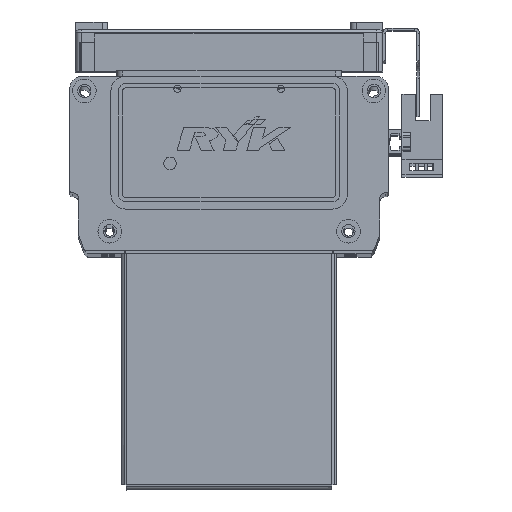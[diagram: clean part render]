
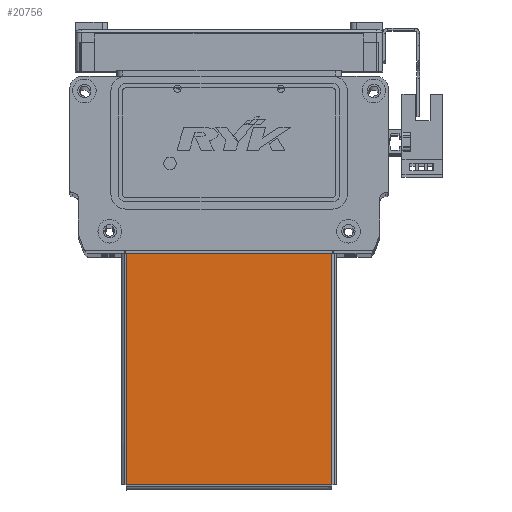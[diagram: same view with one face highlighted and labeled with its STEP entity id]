
A CAD part, top view. The second image highlights one B-rep face of the part: STEP entity #20756.
In plain terms, the highlighted planar face has unit normal (0, 0, 1) as drawn and (0, 1, 0) by its records, which use the part's own axes.
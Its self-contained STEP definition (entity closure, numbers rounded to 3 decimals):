
#796 = CARTESIAN_POINT ( 'NONE',  ( -34.763, 0., 38.763 ) ) ;
#799 = CARTESIAN_POINT ( 'NONE',  ( -34.763, 0., -39.5 ) ) ;
#815 = CARTESIAN_POINT ( 'NONE',  ( 34.763, 0., 38.763 ) ) ;
#820 = CARTESIAN_POINT ( 'NONE',  ( 34.763, 0., -39.5 ) ) ;
#11439 = ORIENTED_EDGE ( 'NONE', *, *, #44593, .T. ) ;
#11470 = ORIENTED_EDGE ( 'NONE', *, *, #44503, .T. ) ;
#11504 = ORIENTED_EDGE ( 'NONE', *, *, #44521, .T. ) ;
#11514 = ORIENTED_EDGE ( 'NONE', *, *, #44567, .T. ) ;
#14932 = DIRECTION ( 'NONE',  ( 0., 0., 1. ) ) ;
#14935 = CARTESIAN_POINT ( 'NONE',  ( -34.763, 0., -39.5 ) ) ;
#15002 = CARTESIAN_POINT ( 'NONE',  ( -35.5, 0., -39.5 ) ) ;
#15007 = DIRECTION ( 'NONE',  ( -1., 0., 0. ) ) ;
#15194 = DIRECTION ( 'NONE',  ( 0., 0., -1. ) ) ;
#15198 = CARTESIAN_POINT ( 'NONE',  ( 34.763, 0., 38.793 ) ) ;
#15280 = CARTESIAN_POINT ( 'NONE',  ( -34.793, 0., 38.763 ) ) ;
#15282 = DIRECTION ( 'NONE',  ( 1., 0., 0. ) ) ;
#17265 = PLANE ( 'NONE',  #18372 ) ;
#17283 = CARTESIAN_POINT ( 'NONE',  ( 0., 0., 0. ) ) ;
#17284 = DIRECTION ( 'NONE',  ( 0., 1., 0. ) ) ;
#17285 = DIRECTION ( 'NONE',  ( 0., 0., 1. ) ) ;
#18372 = AXIS2_PLACEMENT_3D ( 'NONE', #17283, #17284, #17285 ) ;
#20756 = ADVANCED_FACE ( 'NONE', ( #37114 ), #17265, .T. ) ;
#25755 = LINE ( 'NONE', #14935, #25762 ) ;
#25762 = VECTOR ( 'NONE', #14932, 1000. ) ;
#25860 = VECTOR ( 'NONE', #15007, 1000. ) ;
#25887 = LINE ( 'NONE', #15002, #25860 ) ;
#25976 = LINE ( 'NONE', #15198, #26035 ) ;
#26035 = VECTOR ( 'NONE', #15194, 1000. ) ;
#26111 = VECTOR ( 'NONE', #15282, 1000. ) ;
#26133 = LINE ( 'NONE', #15280, #26111 ) ;
#37114 = FACE_OUTER_BOUND ( 'NONE', #59420, .T. ) ;
#44503 = EDGE_CURVE ( 'NONE', #53960, #53974, #25755, .T. ) ;
#44521 = EDGE_CURVE ( 'NONE', #53970, #53960, #25887, .T. ) ;
#44567 = EDGE_CURVE ( 'NONE', #53958, #53970, #25976, .T. ) ;
#44593 = EDGE_CURVE ( 'NONE', #53974, #53958, #26133, .T. ) ;
#53958 = VERTEX_POINT ( 'NONE', #815 ) ;
#53960 = VERTEX_POINT ( 'NONE', #799 ) ;
#53970 = VERTEX_POINT ( 'NONE', #820 ) ;
#53974 = VERTEX_POINT ( 'NONE', #796 ) ;
#59420 = EDGE_LOOP ( 'NONE', ( #11470, #11439, #11514, #11504 ) ) ;
